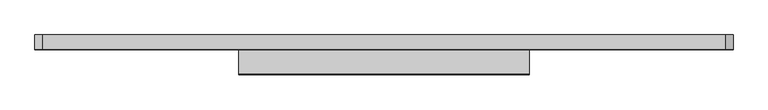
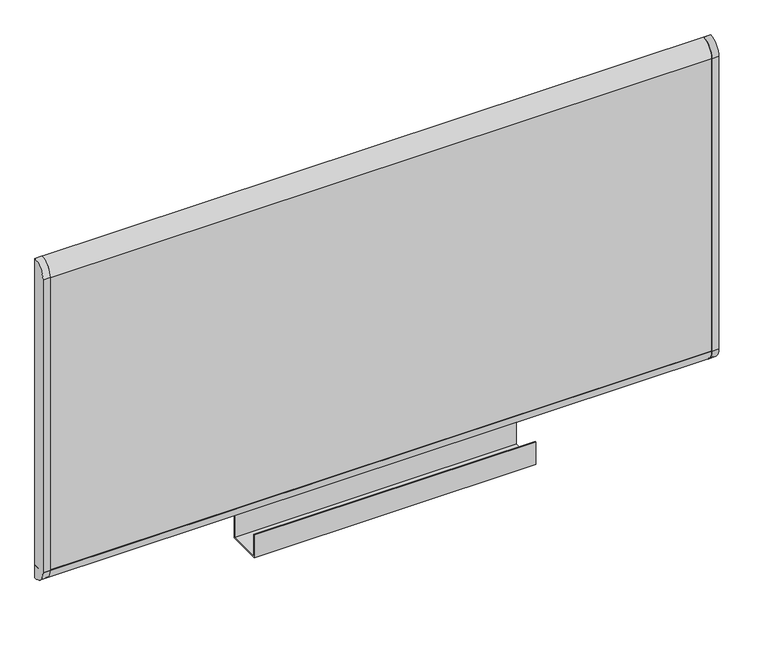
"""IFC4 building model written with IfcOpenShell, lengths in millimetres: furniture geometry."""

from ifc_helpers import new_model, si_unit, point, frame, frame_2d, origin, place, context, project, spatial, polyline, circle_curve, trimmed, segment, composite_curve, outline, extrude, source, transform, mapped, element, save


def furniture_ef268846(model_context):
    return source(origin(), model_context, "Body", "SweptSolid", [
        extrude(outline(composite_curve([segment(trimmed(circle_curve(frame_2d((12.7, 1310.46728)), 25.4), [point((-12.7, 1310.46728))], [point((12.7, 1335.86728))], False, "CARTESIAN"), True, "CONTINUOUS"), segment(polyline([(12.7, 1335.86728), (12.7, 726.26728)]), True, "CONTINUOUS"), segment(trimmed(circle_curve(frame_2d((12.7, 751.66728)), 25.4), [point((12.7, 726.26728))], [point((-12.7, 751.66728))], False, "CARTESIAN"), True, "CONTINUOUS"), segment(polyline([(-12.7, 751.66728), (-12.7, 1310.46728)]), True, "CONTINUOUS")], self_intersect=False)), frame((596.9, 0.0, 0.0), z_axis=(1.0, 0.0, 0.0), x_axis=(0.0, 1.0, 0.0)), (0.0, 0.0, 1.0), 12.7),
        extrude(outline(composite_curve([segment(trimmed(circle_curve(frame_2d((12.7, 1310.46728)), 25.4), [point((-12.7, 1310.46728))], [point((12.7, 1335.86728))], False, "CARTESIAN"), True, "CONTINUOUS"), segment(polyline([(12.7, 1335.86728), (12.7, 726.26728)]), True, "CONTINUOUS"), segment(trimmed(circle_curve(frame_2d((12.7, 751.66728)), 25.4), [point((12.7, 726.26728))], [point((-12.7, 751.66728))], False, "CARTESIAN"), True, "CONTINUOUS"), segment(polyline([(-12.7, 751.66728), (-12.7, 1310.46728)]), True, "CONTINUOUS")], self_intersect=False)), frame((-609.6, 0.0, 0.0), z_axis=(1.0, 0.0, 0.0), x_axis=(0.0, 1.0, 0.0)), (0.0, 0.0, 1.0), 12.6991989),
        extrude(outline(composite_curve([segment(polyline([(-12.7, 751.66728), (12.7, 751.66728), (12.7, 726.26728)]), True, "CONTINUOUS"), segment(trimmed(circle_curve(frame_2d((12.7, 751.66728)), 25.4), [point((12.7, 726.26728))], [point((-12.7, 751.66728))], False, "CARTESIAN"), True, "CONTINUOUS")], self_intersect=False)), frame((-609.6, 0.0, 0.0), z_axis=(1.0, 0.0, 0.0), x_axis=(0.0, 1.0, 0.0)), (0.0, 0.0, 1.0), 1219.2),
        extrude(outline(composite_curve([segment(trimmed(circle_curve(frame_2d((12.7, 1310.46728)), 25.4), [point((-12.7, 1310.46728))], [point((12.7, 1335.86728))], False, "CARTESIAN"), True, "CONTINUOUS"), segment(polyline([(12.7, 1335.86728), (12.7, 1310.46728), (-12.7, 1310.46728)]), True, "CONTINUOUS")], self_intersect=False)), frame((-609.6, 0.0, 0.0), z_axis=(1.0, 0.0, 0.0), x_axis=(0.0, 1.0, 0.0)), (0.0, 0.0, 1.0), 1219.2),
        extrude(outline(composite_curve([segment(trimmed(circle_curve(frame_2d((12.7132292, 751.66728)), 24.6194792), [point((11.90625, 727.06103))], [point((-11.90625, 751.66728))], False, "CARTESIAN"), True, "CONTINUOUS"), segment(polyline([(-11.90625, 751.66728), (-11.90625, 1310.46728)]), True, "CONTINUOUS"), segment(trimmed(circle_curve(frame_2d((11.90625, 1311.2482276)), 23.8253024), [point((-11.90625, 1310.46728))], [point((11.90625, 1335.07353))], False, "CARTESIAN"), True, "CONTINUOUS"), segment(polyline([(11.90625, 1335.07353), (11.90625, 727.06103)]), True, "CONTINUOUS")], self_intersect=False)), frame((-596.9008011, 0.0, 0.0), z_axis=(1.0, 0.0, 0.0), x_axis=(0.0, 1.0, 0.0)), (0.0, 0.0, 1.0), 1193.8008011),
        extrude(outline(polyline([(4.7624998, 726.26728), (6.3499998, 726.26728), (6.3499998, 682.5602579), (-57.1500015, 682.5602579), (-57.1500015, 726.26728), (-55.5625015, 726.26728), (-55.5625015, 684.1477579), (4.7624998, 684.1477579), (4.7624998, 726.26728)])), frame((-254.0508084, 0.0, 0.0), z_axis=(1.0, 0.0, 0.0), x_axis=(0.0, 1.0, 0.0)), (0.0, 0.0, 1.0), 507.9999879),
    ])


if __name__ == "__main__":
    model = new_model("IFC4")
    model_context = context("Model", 3, world=origin())
    ifc_project = project(units=[si_unit("LENGTHUNIT", "METRE", prefix="MILLI")], contexts=[model_context])
    site = spatial("IfcSite", under=ifc_project)
    building = spatial("IfcBuilding", under=site)
    placement = place(None, origin())
    furniture_shape = furniture_ef268846(model_context)
    element("IfcFurniture", 1, ObjectType="HermanMiller_ActionOffice_A3510_B-StyleMarkerBoard : 24\"H x 48\"W", at=placement, inside=building, context=model_context, shape_type="MappedRepresentation", body=[
        mapped(furniture_shape, transform((0.0, 0.0, 0.0), x_axis=(1.0, 0.0, 0.0), y_axis=(0.0, 1.0, 0.0), z_axis=(0.0, 0.0, 1.0))),
    ])
    save(model, "model.ifc")
